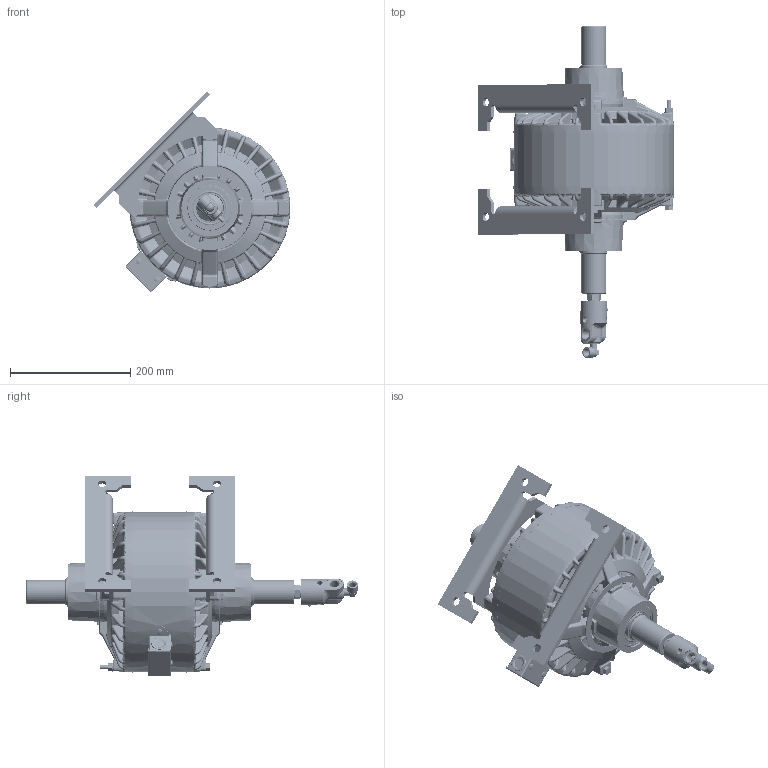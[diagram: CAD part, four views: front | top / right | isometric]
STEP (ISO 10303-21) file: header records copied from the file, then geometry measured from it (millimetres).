
FILE_DESCRIPTION(/* description */ ('STEP AP214'),/* implementation_level */ '2;1');
FILE_NAME(/* name */ '100MCW90B20_stp.step',/* time_stamp */ '2026-05-13T14:04:21-05:00',/* author */ (''),/* organization */ (''),/* preprocessor_version */ 'ST-DEVELOPER v20.1',/* originating_system */ 'Autodesk Translation Framework v15.8.0.0',/* authorisation */ '');
FILE_SCHEMA (('AUTOMOTIVE_DESIGN { 1 0 10303 214 3 1 1 }'));
Products named in the file (1): 100MCW90B20_asm_stp
Bounding box: 326.81 x 551.14 x 333.09 mm (x, y, z)
Volume: 5221510.5 mm3; surface area: 1024487.9 mm2
Topology: 7 solids, 15 shells, 4625 faces, 11655 edges, 6778 vertices
Faces by surface type: bspline 1632, cylinder 1128, plane 995, torus 530, cone 289, sphere 51
Full cylindrical faces by diameter (mm): 3.795 x4, 4.039 x4, 6.325 x1, 6.35 x7, 7.938 x8, 8.6 x3, 9.474 x4, 9.5 x1, 9.525 x6, 10.719 x1, 11.125 x1, 12 x1, 12.7 x1, 13.889 x1, 14.275 x4, 14.684 x2, 16.5 x1, 17.475 x2, 18 x1, 19.15 x1, 22.2 x1, 22.225 x3, 31.75 x1, 35.05 x1, 41.237 x1, 42.469 x3, 43.663 x2, 44.5 x1, 45.009 x10, 51 x8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
Entity records: 210411 total; most frequent: CARTESIAN_POINT 111229, ORIENTED_EDGE 22888, DIRECTION 18525, EDGE_CURVE 11444, AXIS2_PLACEMENT_3D 7694, VERTEX_POINT 6790, EDGE_LOOP 4788, FACE_OUTER_BOUND 4625
